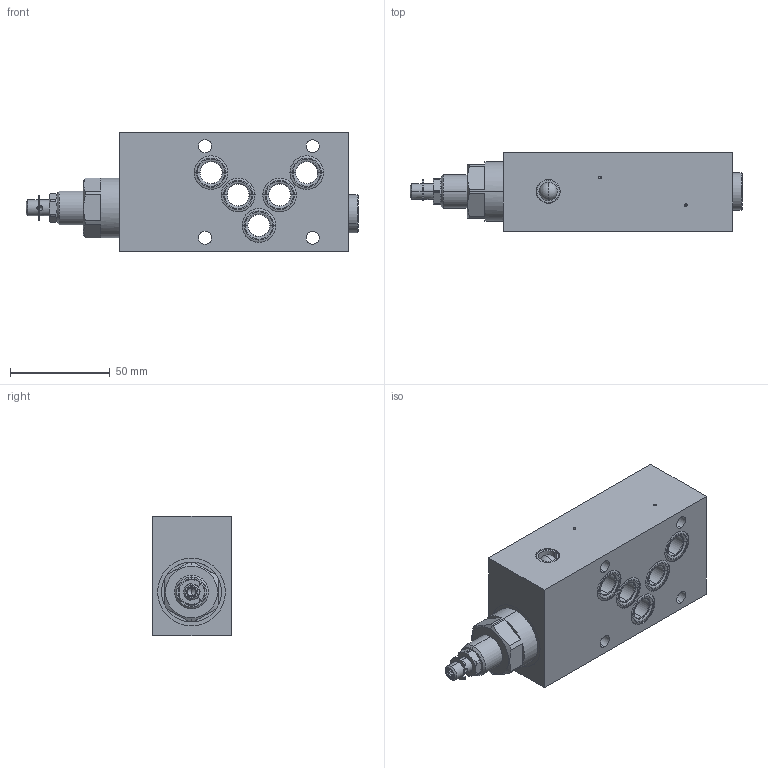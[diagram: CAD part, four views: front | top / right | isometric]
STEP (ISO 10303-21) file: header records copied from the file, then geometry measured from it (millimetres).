
FILE_DESCRIPTION (( 'STEP AP214' ), '1' );
FILE_NAME ('B.SSA10-P.STEP', '2017-03-23T07:28:29', ( '' ), ( '' ), 'SwSTEP 2.0', 'SolidWorks 2016', '' );
FILE_SCHEMA (( 'AUTOMOTIVE_DESIGN' ));
Length unit declared in the file: millimetre
Products named in the file (1): B.SSA10-P
Bounding box: 166.5 x 39.5 x 60 mm (x, y, z)
Volume: 264547.1 mm3; surface area: 45702.4 mm2
Topology: 10 solids, 13 shells, 312 faces, 769 edges, 488 vertices
Faces by surface type: cylinder 122, plane 87, cone 53, bspline 40, sphere 8, torus 2
Entity records: 13565 total; most frequent: CARTESIAN_POINT 2650, DIRECTION 1610, ORIENTED_EDGE 1506, EDGE_CURVE 753, AXIS2_PLACEMENT_3D 676, VERTEX_POINT 488, CIRCLE 403, EDGE_LOOP 367
